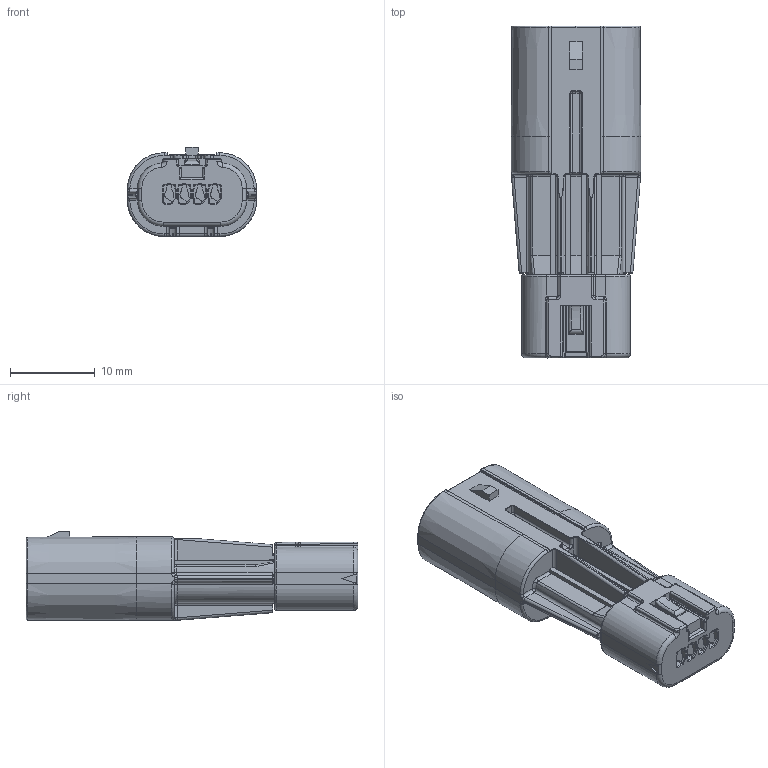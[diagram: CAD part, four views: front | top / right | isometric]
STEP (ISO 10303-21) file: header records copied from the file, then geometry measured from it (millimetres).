
FILE_DESCRIPTION((''),'2;1');
FILE_NAME('2042230004','2018-02-22T',('ghp'),(''),'PRO/ENGINEER BY PARAMETRIC TECHNOLOGY CORPORATION, 2012310','PRO/ENGINEER BY PARAMETRIC TECHNOLOGY CORPORATION, 2012310','');
FILE_SCHEMA(('CONFIG_CONTROL_DESIGN'));
Length unit declared in the file: millimetre
Products named in the file (1): 2042230004
Bounding box: 15.3 x 39.25 x 10.53 mm (x, y, z)
Volume: 2400.5 mm3; surface area: 2804.5 mm2
Topology: 1 solids, 1 shells, 831 faces, 2080 edges, 1223 vertices
Faces by surface type: cylinder 302, plane 278, bspline 84, torus 78, cone 64, sphere 22, extrusion 3
Entity records: 32446 total; most frequent: CARTESIAN_POINT 13272, ORIENTED_EDGE 4082, DIRECTION 3908, EDGE_CURVE 2041, AXIS2_PLACEMENT_3D 1413, VERTEX_POINT 1223, VECTOR 1082, LINE 1079
